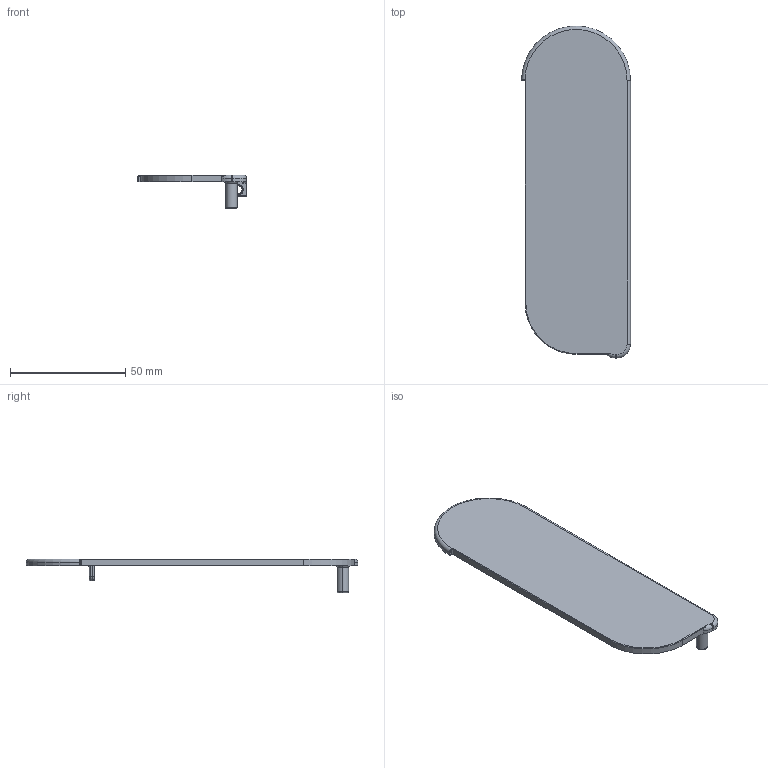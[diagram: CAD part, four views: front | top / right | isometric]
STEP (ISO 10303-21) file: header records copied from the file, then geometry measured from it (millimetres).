
FILE_DESCRIPTION((''),'2;1');
FILE_NAME('MONO-LOAD-MAIN-CAP','2021-03-24T',('Saeed'),(''),'PRO/ENGINEER BY PARAMETRIC TECHNOLOGY CORPORATION, 2012130','PRO/ENGINEER BY PARAMETRIC TECHNOLOGY CORPORATION, 2012130','');
FILE_SCHEMA(('CONFIG_CONTROL_DESIGN'));
Length unit declared in the file: millimetre
Products named in the file (1): MONO-LOAD-MAIN-CAP
Bounding box: 47.3 x 144 x 14.7 mm (x, y, z)
Volume: 10438.2 mm3; surface area: 14141.6 mm2
Topology: 1 solids, 1 shells, 91 faces, 216 edges, 129 vertices
Faces by surface type: cylinder 37, torus 20, plane 17, bspline 15, cone 2
Entity records: 3495 total; most frequent: CARTESIAN_POINT 1400, DIRECTION 441, ORIENTED_EDGE 432, EDGE_CURVE 216, AXIS2_PLACEMENT_3D 183, VERTEX_POINT 129, CIRCLE 107, EDGE_LOOP 95
